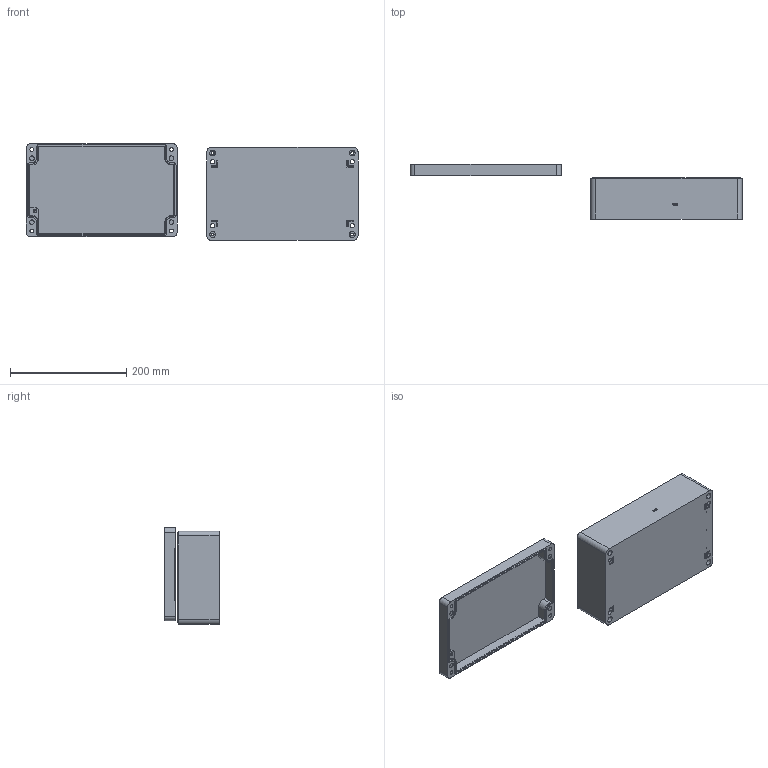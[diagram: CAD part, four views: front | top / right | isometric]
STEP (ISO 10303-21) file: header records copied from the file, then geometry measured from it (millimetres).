
FILE_DESCRIPTION (( 'STEP AP203' ), '1' );
FILE_NAME ('ZX-AL-162609_装配体.STEP', '2022-01-24T09:02:59', ( '微软用户' ), ( '微软中国' ), 'SwSTEP 2.0', 'SolidWorks 2020', '' );
FILE_SCHEMA (( 'CONFIG_CONTROL_DESIGN' ));
Length unit declared in the file: millimetre
Products named in the file (3): ZX-AL-162609_狟; ZX-AL-162609_奻; ZX-AL-162609_蚾饜极
Assembly tree (2 placements, depth 2):
  ZX-AL-162609_蚾饜极
    ZX-AL-162609_狟
    ZX-AL-162609_奻
Bounding box: 570.97 x 95.45 x 166.17 mm (x, y, z)
Volume: 669192 mm3; surface area: 332425.6 mm2
Topology: 2 solids, 2 shells, 665 faces, 1794 edges, 1169 vertices
Faces by surface type: plane 342, cylinder 164, bspline 123, cone 36
Entity records: 26603 total; most frequent: CARTESIAN_POINT 10270, ORIENTED_EDGE 3560, DIRECTION 2906, EDGE_CURVE 1780, LINE 1208, VECTOR 1208, VERTEX_POINT 1169, AXIS2_PLACEMENT_3D 849
